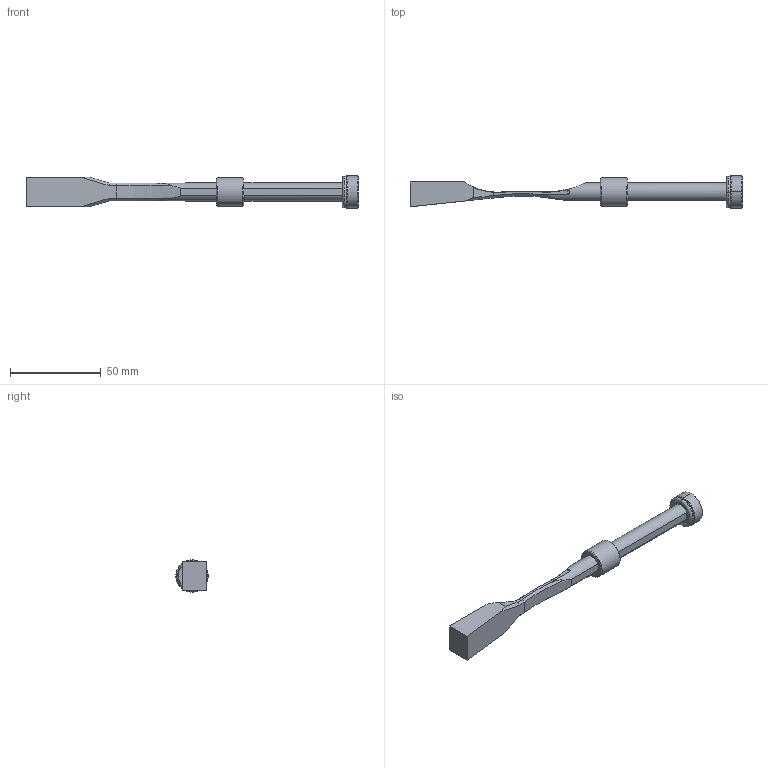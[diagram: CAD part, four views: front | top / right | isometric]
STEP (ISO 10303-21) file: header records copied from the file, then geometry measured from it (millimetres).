
FILE_DESCRIPTION (( 'STEP AP214' ), '1' );
FILE_NAME ('pw101630_injection.STEP', '2021-07-15T09:22:46', ( '' ), ( '' ), 'SwSTEP 2.0', 'SolidWorks 2019', '' );
FILE_SCHEMA (( 'AUTOMOTIVE_DESIGN' ));
Length unit declared in the file: millimetre
Products named in the file (6): 9CS101615; 9PW101630 TANCADA; 9FP1808M6; 1DIN7984616_DIN 7984 - M6 x 16 --- 16C; pw101630_injection; 3JT12.5X2.5X17.5
Assembly tree (5 placements, depth 2):
  pw101630_injection
    9PW101630 TANCADA
    9CS101615
    9FP1808M6
    3JT12.5X2.5X17.5
    1DIN7984616_DIN 7984 - M6 x 16 --- 16C
Bounding box: 183 x 17.8 x 17.8 mm (x, y, z)
Volume: 18417.6 mm3; surface area: 10438.2 mm2
Topology: 5 solids, 5 shells, 456 faces, 1227 edges, 800 vertices
Faces by surface type: bspline 232, plane 116, cylinder 64, cone 28, torus 16
Entity records: 24619 total; most frequent: CARTESIAN_POINT 14937, ORIENTED_EDGE 2446, EDGE_CURVE 1223, DIRECTION 1025, B_SPLINE_CURVE_WITH_KNOTS 804, VERTEX_POINT 800, EDGE_LOOP 485, FACE_OUTER_BOUND 456
